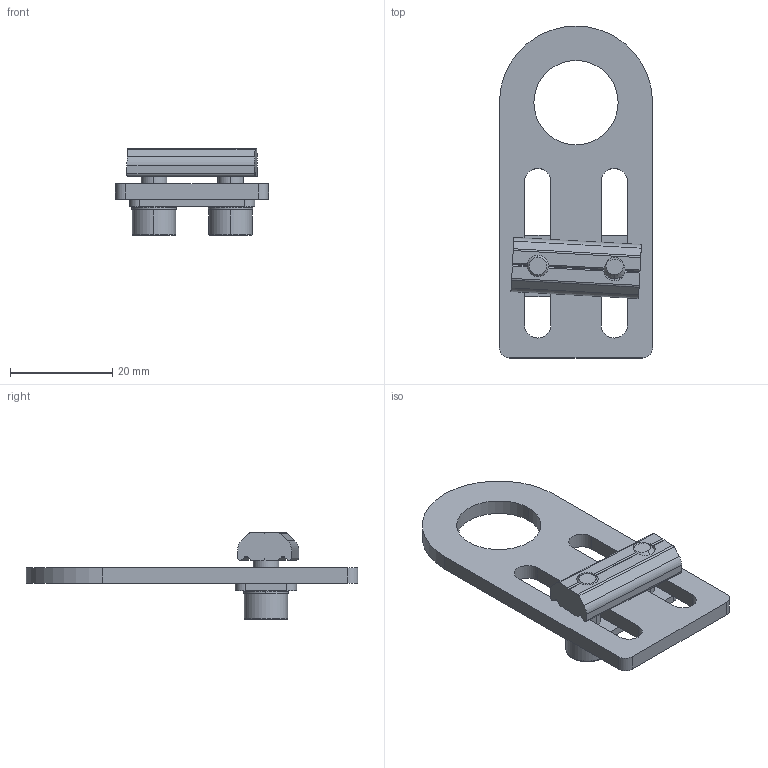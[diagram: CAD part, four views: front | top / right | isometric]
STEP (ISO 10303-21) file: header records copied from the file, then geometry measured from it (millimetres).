
FILE_DESCRIPTION (( 'STEP AP214' ), '1' );
FILE_NAME ('SMBE6-1628T.STEP', '2023-01-10T01:13:00', ( 'Windows User' ), ( 'P R C' ), 'SwSTEP 2.0', 'SolidWorks 2018', '' );
FILE_SCHEMA (( 'AUTOMOTIVE_DESIGN' ));
Length unit declared in the file: millimetre
Products named in the file (1): SMBE6-1628T
Bounding box: 30 x 65 x 17 mm (x, y, z)
Volume: 6342 mm3; surface area: 6483.3 mm2
Topology: 7 solids, 7 shells, 510 faces, 1476 edges, 976 vertices
Faces by surface type: plane 447, cylinder 55, cone 4, bspline 4
Entity records: 22940 total; most frequent: CARTESIAN_POINT 3425, ORIENTED_EDGE 2952, DIRECTION 2924, EDGE_CURVE 1476, AXIS2_PLACEMENT_3D 981, VERTEX_POINT 976, VECTOR 962, LINE 962
